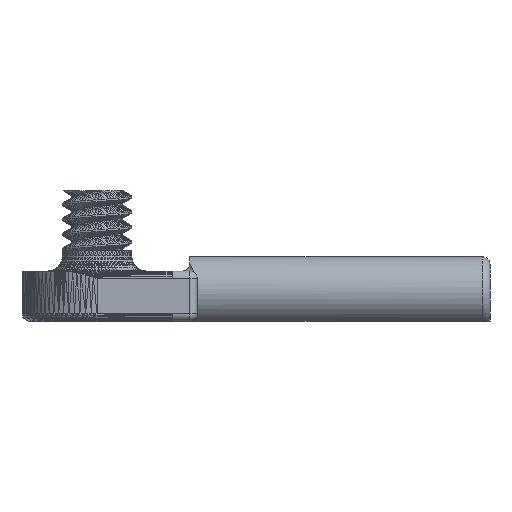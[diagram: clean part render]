
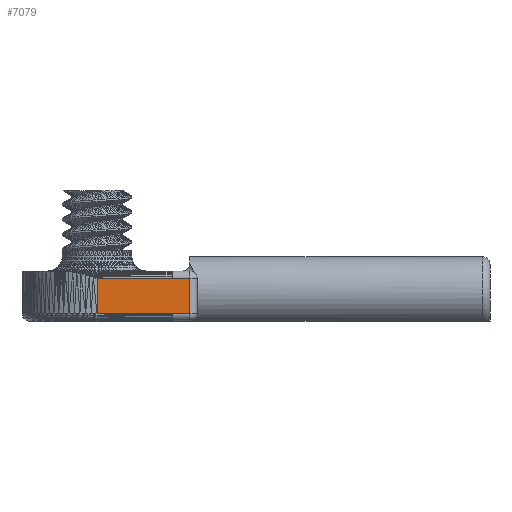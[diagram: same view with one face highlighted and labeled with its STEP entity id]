
A CAD part, front view. The second image highlights one B-rep face of the part: STEP entity #7079.
In plain terms, the highlighted planar face has unit normal (0, -1, 0).
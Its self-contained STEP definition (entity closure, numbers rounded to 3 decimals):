
#2287 = EDGE_CURVE('',#2288,#2290,#2292,.T.);
#2288 = VERTEX_POINT('',#2289);
#2289 = CARTESIAN_POINT('',(100.,85.,1.499));
#2290 = VERTEX_POINT('',#2291);
#2291 = CARTESIAN_POINT('',(103.5,85.,1.499));
#2292 = LINE('',#2293,#2294);
#2293 = CARTESIAN_POINT('',(100.,85.,1.499));
#2294 = VECTOR('',#2295,1.);
#2295 = DIRECTION('',(1.,0.,0.));
#6780 = EDGE_CURVE('',#2290,#6781,#6783,.T.);
#6781 = VERTEX_POINT('',#6782);
#6782 = CARTESIAN_POINT('',(103.5,85.,8.5));
#6783 = LINE('',#6784,#6785);
#6784 = CARTESIAN_POINT('',(103.5,85.,1.499));
#6785 = VECTOR('',#6786,1.);
#6786 = DIRECTION('',(0.,0.,1.));
#7079 = ADVANCED_FACE('',(#7080),#7114,.T.);
#7080 = FACE_BOUND('',#7081,.T.);
#7081 = EDGE_LOOP('',(#7082,#7083,#7084,#7092,#7100,#7108));
#7082 = ORIENTED_EDGE('',*,*,#2287,.T.);
#7083 = ORIENTED_EDGE('',*,*,#6780,.T.);
#7084 = ORIENTED_EDGE('',*,*,#7085,.F.);
#7085 = EDGE_CURVE('',#7086,#6781,#7088,.T.);
#7086 = VERTEX_POINT('',#7087);
#7087 = CARTESIAN_POINT('',(100.,85.,8.5));
#7088 = LINE('',#7089,#7090);
#7089 = CARTESIAN_POINT('',(100.,85.,8.5));
#7090 = VECTOR('',#7091,1.);
#7091 = DIRECTION('',(1.,0.,0.));
#7092 = ORIENTED_EDGE('',*,*,#7093,.F.);
#7093 = EDGE_CURVE('',#7094,#7086,#7096,.T.);
#7094 = VERTEX_POINT('',#7095);
#7095 = CARTESIAN_POINT('',(85.,85.,8.5));
#7096 = LINE('',#7097,#7098);
#7097 = CARTESIAN_POINT('',(85.,85.,8.5));
#7098 = VECTOR('',#7099,1.);
#7099 = DIRECTION('',(1.,0.,0.));
#7100 = ORIENTED_EDGE('',*,*,#7101,.T.);
#7101 = EDGE_CURVE('',#7094,#7102,#7104,.T.);
#7102 = VERTEX_POINT('',#7103);
#7103 = CARTESIAN_POINT('',(85.,85.,1.5));
#7104 = LINE('',#7105,#7106);
#7105 = CARTESIAN_POINT('',(85.,85.,8.5));
#7106 = VECTOR('',#7107,1.);
#7107 = DIRECTION('',(0.,0.,-1.));
#7108 = ORIENTED_EDGE('',*,*,#7109,.T.);
#7109 = EDGE_CURVE('',#7102,#2288,#7110,.T.);
#7110 = LINE('',#7111,#7112);
#7111 = CARTESIAN_POINT('',(85.,85.,1.5));
#7112 = VECTOR('',#7113,1.);
#7113 = DIRECTION('',(1.,0.,0.));
#7114 = PLANE('',#7115);
#7115 = AXIS2_PLACEMENT_3D('',#7116,#7117,#7118);
#7116 = CARTESIAN_POINT('',(95.,85.,5.));
#7117 = DIRECTION('',(0.,-1.,-0.));
#7118 = DIRECTION('',(-1.,0.,0.));
